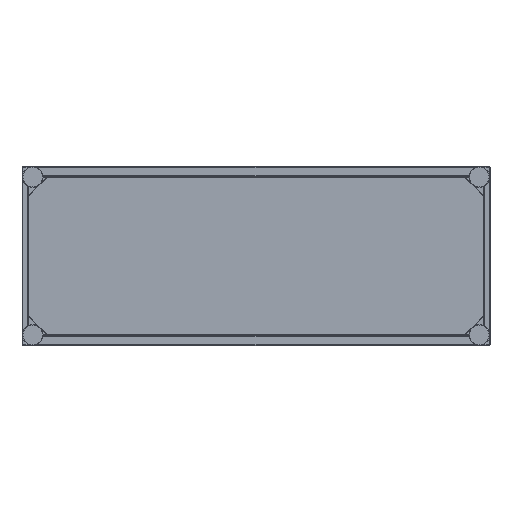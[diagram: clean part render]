
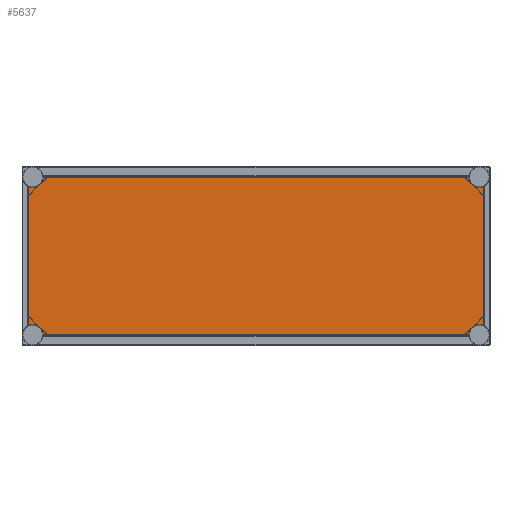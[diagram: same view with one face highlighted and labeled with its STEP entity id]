
A CAD part, front view. The second image highlights one B-rep face of the part: STEP entity #5637.
In plain terms, the highlighted planar face has unit normal (0, -1, 0).
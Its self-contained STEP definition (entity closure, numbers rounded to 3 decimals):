
#5084=CARTESIAN_POINT('',(665.85,-375.,-235.85));
#5085=DIRECTION('',(0.,1.,0.));
#5086=DIRECTION('',(-1.,0.,0.027));
#5087=AXIS2_PLACEMENT_3D('',#5084,#5085,#5086);
#5159=CARTESIAN_POINT('',(665.85,-375.,235.85));
#5160=DIRECTION('',(0.,1.,0.));
#5161=DIRECTION('',(0.422,0.,-0.907));
#5162=AXIS2_PLACEMENT_3D('',#5159,#5160,#5161);
#5240=DIRECTION('',(-1.,0.,0.));
#5241=VECTOR('',#5240,1269.423);
#5242=CARTESIAN_POINT('',(634.712,-375.,235.));
#5243=LINE('',#5242,#5241);
#5244=DIRECTION('',(0.,0.,1.));
#5245=VECTOR('',#5244,415.223);
#5246=CARTESIAN_POINT('',(679.,-375.,-207.612));
#5247=LINE('',#5246,#5245);
#5248=DIRECTION('',(1.,0.,0.));
#5249=VECTOR('',#5248,1269.423);
#5250=CARTESIAN_POINT('',(-634.712,-375.,-235.));
#5251=LINE('',#5250,#5249);
#5252=DIRECTION('',(0.,0.,-1.));
#5253=VECTOR('',#5252,415.223);
#5254=CARTESIAN_POINT('',(-679.,-375.,207.612));
#5255=LINE('',#5254,#5253);
#5278=CARTESIAN_POINT('',(-665.85,-375.,235.85));
#5279=DIRECTION('',(0.,1.,0.));
#5280=DIRECTION('',(1.,0.,-0.027));
#5281=AXIS2_PLACEMENT_3D('',#5278,#5279,#5280);
#5299=CARTESIAN_POINT('',(-665.85,-375.,-235.85));
#5300=DIRECTION('',(0.,1.,0.));
#5301=DIRECTION('',(-0.422,0.,0.907));
#5302=AXIS2_PLACEMENT_3D('',#5299,#5300,#5301);
#5398=CARTESIAN_POINT('',(-634.712,-375.,235.));
#5399=CARTESIAN_POINT('',(-679.,-375.,207.612));
#5400=VERTEX_POINT('',#5398);
#5401=VERTEX_POINT('',#5399);
#5402=CARTESIAN_POINT('',(679.,-375.,207.612));
#5403=CARTESIAN_POINT('',(634.712,-375.,235.));
#5404=VERTEX_POINT('',#5402);
#5405=VERTEX_POINT('',#5403);
#5406=CARTESIAN_POINT('',(634.712,-375.,-235.));
#5407=CARTESIAN_POINT('',(679.,-375.,-207.612));
#5408=VERTEX_POINT('',#5406);
#5409=VERTEX_POINT('',#5407);
#5410=CARTESIAN_POINT('',(-679.,-375.,-207.612));
#5411=CARTESIAN_POINT('',(-634.712,-375.,-235.));
#5412=VERTEX_POINT('',#5410);
#5413=VERTEX_POINT('',#5411);
#5617=CARTESIAN_POINT('',(0.,-375.,0.));
#5618=DIRECTION('',(0.,-1.,0.));
#5619=DIRECTION('',(-1.,0.,0.));
#5620=AXIS2_PLACEMENT_3D('',#5617,#5618,#5619);
#5621=PLANE('',#5620);
#5623=ORIENTED_EDGE('',*,*,#5622,.F.);
#5625=ORIENTED_EDGE('',*,*,#5624,.F.);
#5626=ORIENTED_EDGE('',*,*,#5537,.F.);
#5627=ORIENTED_EDGE('',*,*,#5611,.F.);
#5628=ORIENTED_EDGE('',*,*,#5462,.F.);
#5630=ORIENTED_EDGE('',*,*,#5629,.F.);
#5632=ORIENTED_EDGE('',*,*,#5631,.F.);
#5634=ORIENTED_EDGE('',*,*,#5633,.F.);
#5635=EDGE_LOOP('',(#5623,#5625,#5626,#5627,#5628,#5630,#5632,#5634));
#5636=FACE_OUTER_BOUND('',#5635,.F.);
#5088=CIRCLE('',#5087,31.15);
#5163=CIRCLE('',#5162,31.15);
#5282=CIRCLE('',#5281,31.15);
#5303=CIRCLE('',#5302,31.15);
#5462=EDGE_CURVE('',#5408,#5409,#5088,.T.);
#5537=EDGE_CURVE('',#5404,#5405,#5163,.T.);
#5611=EDGE_CURVE('',#5409,#5404,#5247,.T.);
#5622=EDGE_CURVE('',#5400,#5401,#5282,.T.);
#5624=EDGE_CURVE('',#5405,#5400,#5243,.T.);
#5629=EDGE_CURVE('',#5413,#5408,#5251,.T.);
#5631=EDGE_CURVE('',#5412,#5413,#5303,.T.);
#5633=EDGE_CURVE('',#5401,#5412,#5255,.T.);
#5637=ADVANCED_FACE('',(#5636),#5621,.T.);
